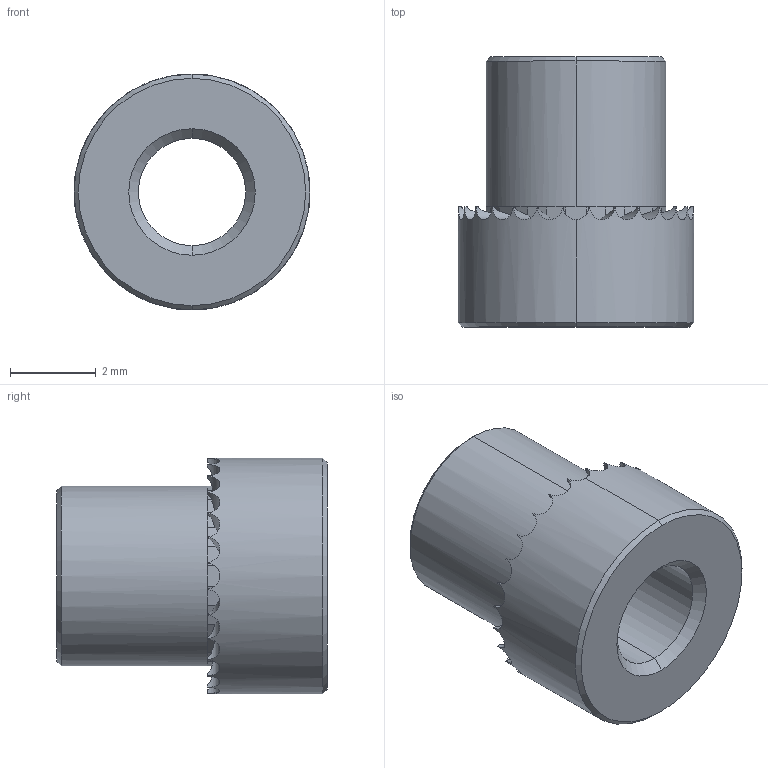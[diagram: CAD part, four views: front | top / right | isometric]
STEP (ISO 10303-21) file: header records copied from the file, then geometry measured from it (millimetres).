
FILE_DESCRIPTION (( 'STEP AP203' ), '1' );
FILE_NAME ('P0829.025-10G-ZP.step', '2019-03-21T22:12:10', ( '' ), ( '' ), 'SwSTEP 2.0', 'SolidWorks 2017', '' );
FILE_SCHEMA (( 'CONFIG_CONTROL_DESIGN' ));
Length unit declared in the file: millimetre
Products named in the file (1): P0829.025-10G-ZP
Bounding box: 5.5 x 6.3 x 5.5 mm (x, y, z)
Volume: 80.8 mm3; surface area: 180.4 mm2
Topology: 1 solids, 1 shells, 128 faces, 312 edges, 186 vertices
Faces by surface type: plane 86, cylinder 34, cone 8
Entity records: 3963 total; most frequent: CARTESIAN_POINT 965, ORIENTED_EDGE 624, DIRECTION 612, EDGE_CURVE 312, AXIS2_PLACEMENT_3D 229, VERTEX_POINT 186, LINE 154, VECTOR 154
